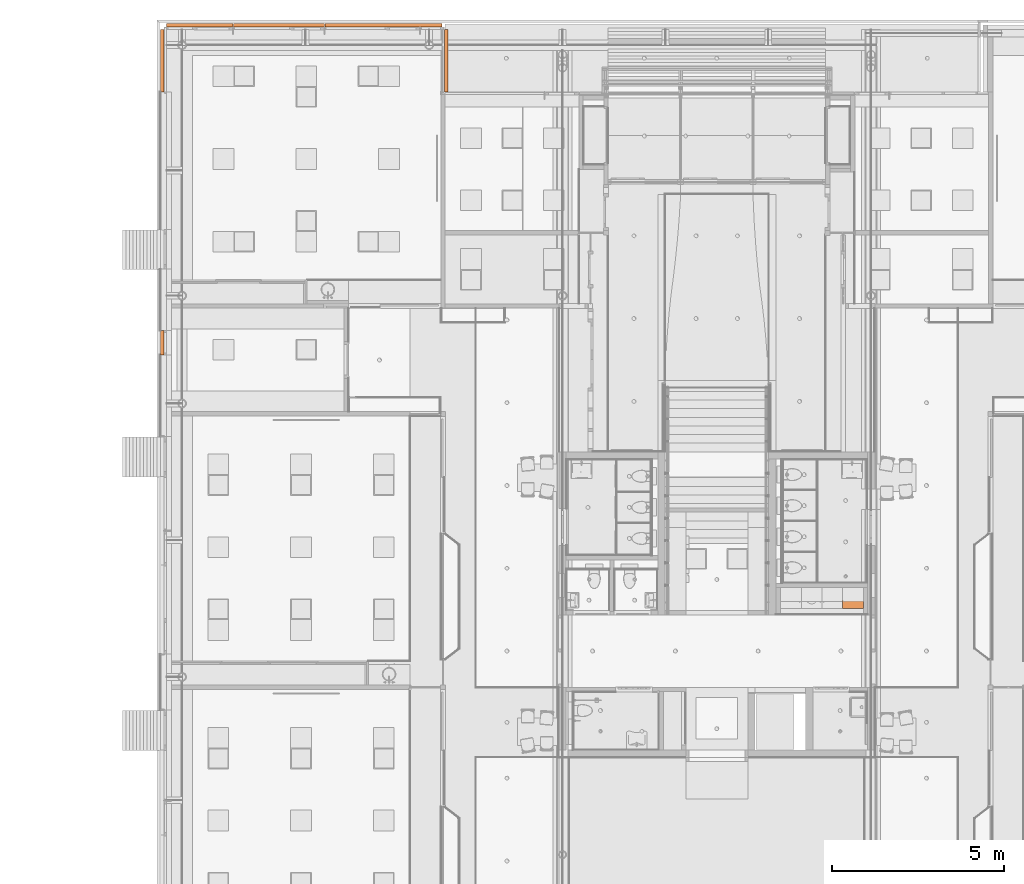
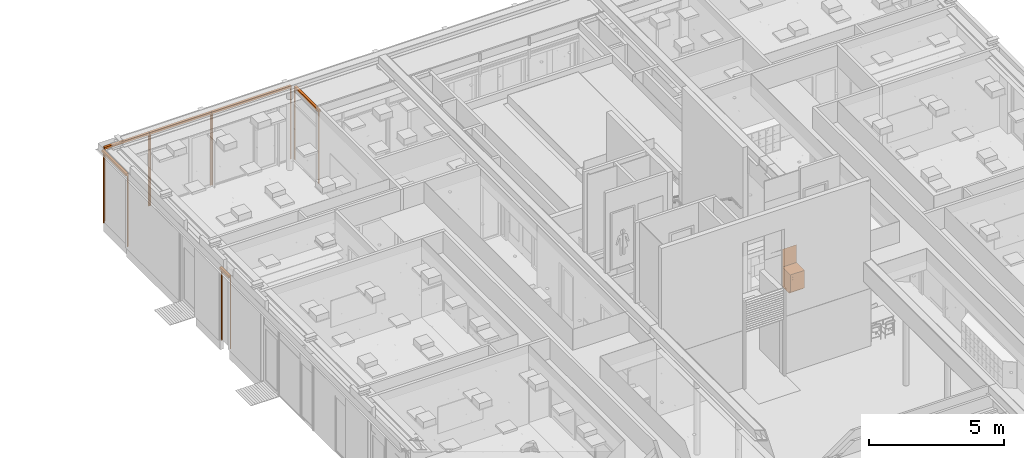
# One storey, part 347 of 347: 7 proxies.
"""IFC2X3 building model written with IfcOpenShell, lengths in millimetres."""

from ifc_helpers import new_model, entity, si_unit, converted_unit, derived_unit, money_unit, direction, frame, origin_with_axes, place, context, subcontext, project, spatial, open_shell, faceted_brep, surface_model, type_object, element, save


model = new_model("IFC2X3")

# Units and contexts
model_context = context("Model", 3, precision=0.01, world=origin_with_axes(), true_north=direction((0.0, 1.0)))
plan_context = context("Plan", 3, precision=0.01, world=origin_with_axes(), true_north=direction((0.0, 1.0)))
body_context = subcontext(model_context, "Body", "Model", "MODEL_VIEW")
ifc_project = project(units=[si_unit("LENGTHUNIT", "METRE", prefix="MILLI"), si_unit("AREAUNIT", "SQUARE_METRE"), si_unit("VOLUMEUNIT", "CUBIC_METRE"), converted_unit("PLANEANGLEUNIT", "DEGREE", entity("IfcPlaneAngleMeasure", 0.0174532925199), si_unit("PLANEANGLEUNIT", "RADIAN"), dimensions=[0, 0, 0, 0, 0, 0, 0]), money_unit("EUR"), converted_unit("TIMEUNIT", "Year", entity("IfcTimeMeasure", 31556926.0), si_unit("TIMEUNIT", "SECOND"), dimensions=[0, 0, 1, 0, 0, 0, 0]), si_unit("MASSUNIT", "GRAM", prefix="KILO"), si_unit("THERMODYNAMICTEMPERATUREUNIT", "DEGREE_CELSIUS"), si_unit("LUMINOUSINTENSITYUNIT", "LUMEN"), si_unit("ENERGYUNIT", "JOULE", prefix="MEGA"), derived_unit("THERMALCONDUCTANCEUNIT", [(si_unit("POWERUNIT", "WATT"), 1), (si_unit("LENGTHUNIT", "METRE"), -1), (si_unit("THERMODYNAMICTEMPERATUREUNIT", "KELVIN"), -1)]), derived_unit("SPECIFICHEATCAPACITYUNIT", [(si_unit("ENERGYUNIT", "JOULE"), 1), (si_unit("MASSUNIT", "GRAM", prefix="KILO"), -1), (si_unit("THERMODYNAMICTEMPERATUREUNIT", "KELVIN"), -1)]), derived_unit("MASSDENSITYUNIT", [(si_unit("MASSUNIT", "GRAM", prefix="KILO"), 1), (si_unit("VOLUMEUNIT", "CUBIC_METRE"), -1)])], contexts=[model_context, plan_context])

# Site, building, storey
site_placement = place(None, origin_with_axes())
site = spatial("IfcSite", under=ifc_project, at=site_placement, Name="Site", CompositionType="ELEMENT")
building_placement = place(site_placement, origin_with_axes())
building = spatial("IfcBuilding", under=site, at=building_placement, Name="Naam gebouw", CompositionType="ELEMENT")
storey_placement = place(building_placement, origin_with_axes())
storey = spatial("IfcBuildingStorey", under=building, at=storey_placement, Name="begane grond", CompositionType="ELEMENT", Elevation=0.0)

# Proxies
building_element_proxy_type_1 = type_object("IfcBuildingElementProxyType", Name="Onderkast recht 25", PredefinedType="NOTDEFINED")
proxy_1_placement = place(storey_placement, frame((44325.0, 30864.9999277, 0.0), z_axis=(0.0, 0.0, 1.0), x_axis=(1.0, 0.0, 0.0)))
element("IfcBuildingElementProxy", 1, at=proxy_1_placement, inside=storey, type_object=building_element_proxy_type_1, Name="_73 pantryblok", context=body_context, shape_type="Brep", body=[
    faceted_brep([(-2.25395169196e-05, -492.0, 2.0), (-2.25395169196e-05, 1.1205766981e-05, 2.0), (0.0, 0.0, 100.0), (0.0, -492.0, 100.0), (-600.0, 1.1205766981e-05, 2.0), (-600.0, -492.0, 2.0), (-600.0, 0.0, 100.0), (-600.0, -492.0, 100.0)], [[[0, 1, 2, 3]], [[4, 1, 0, 5]], [[1, 4, 6, 2]], [[7, 3, 2, 6]], [[5, 0, 3, 7]], [[4, 5, 7, 6]]]),
    faceted_brep([(0.0, -600.0, 870.0), (0.0, -600.0, 900.0), (-600.0, -600.0, 900.0), (-600.0, -600.0, 870.0), (0.0, 0.0, 870.0), (0.0, 0.0, 900.0), (-600.0, 0.0, 900.0), (-600.0, 0.0, 870.0)], [[[0, 1, 2, 3]], [[4, 5, 1, 0]], [[1, 5, 6, 2]], [[3, 2, 6, 7]], [[0, 3, 7, 4]], [[7, 6, 5, 4]]]),
    faceted_brep([(-600.0, 0.0, 900.0), (0.0, 0.0, 900.0), (0.0, -6.0, 900.0), (-600.0, -6.0, 900.0), (-600.0, 0.0, 1700.0), (0.0, 0.0, 1700.0), (0.0, -6.0, 1700.0), (-600.0, -6.0, 1700.0)], [[[0, 1, 2, 3]], [[4, 5, 1, 0]], [[1, 5, 6, 2]], [[3, 2, 6, 7]], [[0, 3, 7, 4]], [[7, 6, 5, 4]]]),
    faceted_brep([(-496.0, -590.0, 641.0), (-506.0, -590.0, 641.0), (-506.0, -590.0, 651.0), (-496.0, -590.0, 651.0), (-496.0, -600.0, 641.0), (-506.0, -600.0, 641.0), (-506.0, -603.472963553, 641.30384494), (-506.0, -606.840402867, 642.206147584), (-506.0, -610.0, 643.679491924), (-506.0, -612.855752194, 645.679111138), (-506.0, -615.320888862, 648.144247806), (-506.0, -617.320508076, 651.0), (-506.0, -618.793852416, 654.159597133), (-506.0, -619.69615506, 657.527036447), (-506.0, -620.0, 661.0), (-506.0, -620.0, 741.0), (-506.0, -619.69615506, 744.472963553), (-506.0, -618.793852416, 747.840402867), (-506.0, -617.320508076, 751.0), (-506.0, -615.320888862, 753.855752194), (-506.0, -612.855752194, 756.320888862), (-506.0, -610.0, 758.320508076), (-506.0, -606.840402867, 759.793852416), (-506.0, -603.472963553, 760.69615506), (-506.0, -600.0, 761.0), (-506.0, -590.0, 761.0), (-506.0, -590.0, 751.0), (-506.0, -600.0, 751.0), (-506.0, -601.736481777, 750.84807753), (-506.0, -603.420201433, 750.396926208), (-506.0, -605.0, 749.660254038), (-506.0, -606.427876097, 748.660444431), (-506.0, -607.660444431, 747.427876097), (-506.0, -608.660254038, 746.0), (-506.0, -609.396926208, 744.420201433), (-506.0, -609.84807753, 742.736481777), (-506.0, -610.0, 741.0), (-506.0, -610.0, 661.0), (-506.0, -609.84807753, 659.263518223), (-506.0, -609.396926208, 657.579798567), (-506.0, -608.660254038, 656.0), (-506.0, -607.660444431, 654.572123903), (-506.0, -606.427876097, 653.339555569), (-506.0, -605.0, 652.339745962), (-506.0, -603.420201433, 651.603073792), (-506.0, -601.736481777, 651.15192247), (-506.0, -600.0, 651.0), (-496.0, -600.0, 651.0), (-496.0, -601.736481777, 651.15192247), (-496.0, -603.420201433, 651.603073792), (-496.0, -605.0, 652.339745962), (-496.0, -606.427876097, 653.339555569), (-496.0, -607.660444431, 654.572123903), (-496.0, -608.660254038, 656.0), (-496.0, -609.396926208, 657.579798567), (-496.0, -609.84807753, 659.263518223), (-496.0, -610.0, 661.0), (-496.0, -610.0, 741.0), (-496.0, -609.84807753, 742.736481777), (-496.0, -609.396926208, 744.420201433), (-496.0, -608.660254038, 746.0), (-496.0, -607.660444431, 747.427876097), (-496.0, -606.427876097, 748.660444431), (-496.0, -605.0, 749.660254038), (-496.0, -603.420201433, 750.396926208), (-496.0, -601.736481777, 750.84807753), (-496.0, -600.0, 751.0), (-496.0, -590.0, 751.0), (-496.0, -590.0, 761.0), (-496.0, -600.0, 761.0), (-496.0, -603.472963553, 760.69615506), (-496.0, -606.840402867, 759.793852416), (-496.0, -610.0, 758.320508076), (-496.0, -612.855752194, 756.320888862), (-496.0, -615.320888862, 753.855752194), (-496.0, -617.320508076, 751.0), (-496.0, -618.793852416, 747.840402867), (-496.0, -619.69615506, 744.472963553), (-496.0, -620.0, 741.0), (-496.0, -620.0, 661.0), (-496.0, -619.69615506, 657.527036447), (-496.0, -618.793852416, 654.159597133), (-496.0, -617.320508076, 651.0), (-496.0, -615.320888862, 648.144247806), (-496.0, -612.855752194, 645.679111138), (-496.0, -610.0, 643.679491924), (-496.0, -606.840402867, 642.206147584), (-496.0, -603.472963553, 641.30384494)], [[[0, 1, 2, 3]], [[4, 5, 1, 0]], [[1, 5, 6, 7, 8, 9, 10, 11, 12, 13, 14, 15, 16, 17, 18, 19, 20, 21, 22, 23, 24, 25, 26, 27, 28, 29, 30, 31, 32, 33, 34, 35, 36, 37, 38, 39, 40, 41, 42, 43, 44, 45, 46, 2]], [[3, 2, 46, 47]], [[0, 3, 47, 48, 49, 50, 51, 52, 53, 54, 55, 56, 57, 58, 59, 60, 61, 62, 63, 64, 65, 66, 67, 68, 69, 70, 71, 72, 73, 74, 75, 76, 77, 78, 79, 80, 81, 82, 83, 84, 85, 86, 87, 4]], [[87, 6, 5, 4]], [[86, 7, 6, 87]], [[85, 8, 7, 86]], [[84, 9, 8, 85]], [[83, 10, 9, 84]], [[82, 11, 10, 83]], [[81, 12, 11, 82]], [[80, 13, 12, 81]], [[79, 14, 13, 80]], [[78, 15, 14, 79]], [[77, 16, 15, 78]], [[76, 17, 16, 77]], [[75, 18, 17, 76]], [[74, 19, 18, 75]], [[73, 20, 19, 74]], [[72, 21, 20, 73]], [[71, 22, 21, 72]], [[70, 23, 22, 71]], [[69, 24, 23, 70]], [[68, 25, 24, 69]], [[67, 26, 25, 68]], [[66, 27, 26, 67]], [[65, 28, 27, 66]], [[64, 29, 28, 65]], [[63, 30, 29, 64]], [[62, 31, 30, 63]], [[61, 32, 31, 62]], [[60, 33, 32, 61]], [[59, 34, 33, 60]], [[58, 35, 34, 59]], [[57, 36, 35, 58]], [[56, 37, 36, 57]], [[55, 38, 37, 56]], [[54, 39, 38, 55]], [[53, 40, 39, 54]], [[52, 41, 40, 53]], [[51, 42, 41, 52]], [[50, 43, 42, 51]], [[49, 44, 43, 50]], [[48, 45, 44, 49]], [[47, 46, 45, 48]]]),
    faceted_brep([(-0.999999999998, -572.0, 101.0), (-0.999999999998, -590.0, 101.0), (-599.0, -590.0, 101.0), (-599.0, -572.0, 101.0), (-0.999999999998, -572.0, 869.0), (-0.999999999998, -590.0, 869.0), (-599.0, -590.0, 869.0), (-599.0, -572.0, 869.0)], [[[0, 1, 2, 3]], [[4, 5, 1, 0]], [[1, 5, 6, 2]], [[3, 2, 6, 7]], [[0, 3, 7, 4]], [[7, 6, 5, 4]]]),
    faceted_brep([(-18.0, -572.0, 100.0), (-18.0, -572.0, 118.0), (-582.0, -572.0, 118.0), (-582.0, -572.0, 100.0), (-18.0, 0.0, 100.0), (-18.0, 0.0, 118.0), (-582.0, 0.0, 118.0), (-582.0, 0.0, 100.0)], [[[0, 1, 2, 3]], [[4, 5, 1, 0]], [[1, 5, 6, 2]], [[3, 2, 6, 7]], [[0, 3, 7, 4]], [[7, 6, 5, 4]]]),
    faceted_brep([(-18.0, -572.0, 852.0), (-582.0, -572.0, 852.0), (-582.0, -512.0, 852.0), (-18.0, -512.0, 852.0), (-18.0, -572.0, 870.0), (-582.0, -572.0, 870.0), (-582.0, -512.0, 870.0), (-18.0, -512.0, 870.0)], [[[0, 1, 2, 3]], [[4, 5, 1, 0]], [[1, 5, 6, 2]], [[3, 2, 6, 7]], [[0, 3, 7, 4]], [[7, 6, 5, 4]]]),
    faceted_brep([(-582.0, 0.0, 852.0), (-18.0, 0.0, 852.0), (-18.0, -60.0, 852.0), (-582.0, -60.0, 852.0), (-582.0, 0.0, 870.0), (-18.0, 0.0, 870.0), (-18.0, -60.0, 870.0), (-582.0, -60.0, 870.0)], [[[0, 1, 2, 3]], [[4, 5, 1, 0]], [[1, 5, 6, 2]], [[3, 2, 6, 7]], [[0, 3, 7, 4]], [[7, 6, 5, 4]]]),
    faceted_brep([(0.0, 0.0, 100.0), (0.0, 0.0, 870.0), (0.0, -572.0, 870.0), (0.0, -572.0, 100.0), (-18.0, 0.0, 100.0), (-18.0, 0.0, 870.0), (-18.0, -572.0, 870.0), (-18.0, -572.0, 100.0)], [[[0, 1, 2, 3]], [[4, 5, 1, 0]], [[1, 5, 6, 2]], [[3, 2, 6, 7]], [[0, 3, 7, 4]], [[7, 6, 5, 4]]]),
    faceted_brep([(-600.0, -572.0, 100.0), (-600.0, -572.0, 870.0), (-600.0, 0.0, 870.0), (-600.0, 0.0, 100.0), (-582.0, -572.0, 100.0), (-582.0, -572.0, 870.0), (-582.0, 0.0, 870.0), (-582.0, 0.0, 100.0)], [[[0, 1, 2, 3]], [[4, 5, 1, 0]], [[1, 5, 6, 2]], [[3, 2, 6, 7]], [[0, 3, 7, 4]], [[7, 6, 5, 4]]]),
    faceted_brep([(-582.0, -9.0, 118.0), (-582.0, -9.0, 852.0), (-18.0, -9.0, 852.0), (-18.0, -9.0, 118.0), (-582.0, -18.0, 118.0), (-582.0, -18.0, 852.0), (-18.0, -18.0, 852.0), (-18.0, -18.0, 118.0)], [[[0, 1, 2, 3]], [[4, 5, 1, 0]], [[1, 5, 6, 2]], [[3, 2, 6, 7]], [[0, 3, 7, 4]], [[7, 6, 5, 4]]]),
])
building_element_proxy_type_2 = type_object("IfcBuildingElementProxyType", Name="Screen 25 KM", PredefinedType="NOTDEFINED")
proxy_2_placement = place(storey_placement, frame((24052.0, 37612.5, -10.0), z_axis=(0.0, 0.0, 1.0), x_axis=(0.0, -1.0, 0.0)))
element("IfcBuildingElementProxy", 2, at=proxy_2_placement, inside=storey, type_object=building_element_proxy_type_2, Name="_78 garderobe", context=body_context, shape_type="SurfaceModel", body=[
    faceted_brep([(0.0, 0.0, 0.0), (0.0, 0.0, 3220.0), (0.0, -40.0, 3220.0), (0.0, -40.0, 0.0), (-38.0, 0.0, 0.0), (-38.0, 0.0, 3220.0), (-38.0, -10.0, 3220.0), (-35.0, -10.0, 3220.0), (-35.0, -3.0, 3220.0), (-3.0, -3.0, 3220.0), (-3.0, -37.0, 3220.0), (-35.0, -37.0, 3220.0), (-35.0, -30.0, 3220.0), (-38.0, -30.0, 3220.0), (-38.0, -40.0, 3220.0), (-38.0, -40.0, 0.0), (-38.0, -30.0, 0.0), (-35.0, -30.0, 0.0), (-35.0, -37.0, 0.0), (-3.0, -37.0, 0.0), (-3.0, -3.0, 0.0), (-35.0, -3.0, 0.0), (-35.0, -10.0, 0.0), (-38.0, -10.0, 0.0)], [[[0, 1, 2, 3]], [[4, 5, 1, 0]], [[1, 5, 6, 7, 8, 9, 10, 11, 12, 13, 14, 2]], [[3, 2, 14, 15]], [[0, 3, 15, 16, 17, 18, 19, 20, 21, 22, 23, 4]], [[23, 6, 5, 4]], [[22, 7, 6, 23]], [[21, 8, 7, 22]], [[20, 9, 8, 21]], [[19, 10, 9, 20]], [[18, 11, 10, 19]], [[17, 12, 11, 18]], [[16, 13, 12, 17]], [[15, 14, 13, 16]]]),
    faceted_brep([(-700.0, 0.0, 0.0), (-700.0, -40.0, 0.0), (-700.0, -40.0, 3220.0), (-700.0, 0.0, 3220.0), (-662.0, 0.0, 0.0), (-662.0, -10.0, 0.0), (-665.0, -10.0, 0.0), (-665.0, -3.0, 0.0), (-697.0, -3.0, 0.0), (-697.0, -37.0, 0.0), (-665.0, -37.0, 0.0), (-665.0, -30.0, 0.0), (-662.0, -30.0, 0.0), (-662.0, -40.0, 0.0), (-662.0, -40.0, 3220.0), (-662.0, -30.0, 3220.0), (-665.0, -30.0, 3220.0), (-665.0, -37.0, 3220.0), (-697.0, -37.0, 3220.0), (-697.0, -3.0, 3220.0), (-665.0, -3.0, 3220.0), (-665.0, -10.0, 3220.0), (-662.0, -10.0, 3220.0), (-662.0, 0.0, 3220.0)], [[[0, 1, 2, 3]], [[0, 4, 5, 6, 7, 8, 9, 10, 11, 12, 13, 1]], [[1, 13, 14, 2]], [[3, 2, 14, 15, 16, 17, 18, 19, 20, 21, 22, 23]], [[4, 0, 3, 23]], [[5, 4, 23, 22]], [[6, 5, 22, 21]], [[7, 6, 21, 20]], [[8, 7, 20, 19]], [[9, 8, 19, 18]], [[10, 9, 18, 17]], [[11, 10, 17, 16]], [[12, 11, 16, 15]], [[13, 12, 15, 14]]]),
    surface_model("IfcShellBasedSurfaceModel", [(0.0, 0.0, 3320.0), (0.0, -100.0, 3320.0), (0.0, -100.0, 3220.0), (0.0, 0.0, 3220.0)], [open_shell([[[0, 1, 2, 3]]])]),
    surface_model("IfcShellBasedSurfaceModel", [(-0.01, 0.0, 3320.0), (-699.99, 0.0, 3320.0), (-699.99, -100.0, 3320.0), (-0.00999999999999, -100.0, 3320.0), (-0.01, 0.0, 3223.0), (-699.99, 0.0, 3223.0), (-699.99, -6.0, 3223.0), (-699.99, -6.0, 3226.0), (-699.99, -3.0, 3226.0), (-699.99, -3.0, 3317.0), (-699.99, -97.0, 3317.0), (-699.99, -97.0, 3223.0), (-699.99, -40.0, 3223.0), (-699.99, -40.0, 3217.0), (-699.99, -43.0, 3217.0), (-699.99, -43.0, 3220.0), (-699.99, -100.0, 3220.0), (-0.01, -100.0, 3220.0), (-0.01, -43.0, 3220.0), (-0.01, -43.0, 3217.0), (-0.01, -40.0, 3217.0), (-0.01, -40.0, 3223.0), (-0.01, -97.0, 3223.0), (-0.00999999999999, -97.0, 3317.0), (-0.01, -3.0, 3317.0), (-0.01, -3.0, 3226.0), (-0.01, -6.0, 3226.0), (-0.01, -6.0, 3223.0)], [open_shell([[[0, 1, 2, 3]], [[4, 5, 1, 0]], [[1, 5, 6, 7, 8, 9, 10, 11, 12, 13, 14, 15, 16, 2]], [[3, 2, 16, 17]], [[0, 3, 17, 18, 19, 20, 21, 22, 23, 24, 25, 26, 27, 4]], [[19, 14, 13, 20]], [[18, 15, 14, 19]], [[17, 16, 15, 18]]])]),
    surface_model("IfcShellBasedSurfaceModel", [(-699.99, 0.0, 3320.0), (-699.99, -100.0, 3320.0), (-699.99, -100.0, 3220.0), (-699.99, 0.0, 3220.0)], [open_shell([[[0, 1, 2, 3]]])]),
])
proxy_3_placement = place(storey_placement, frame((24052.0, 45235.0, -10.0), z_axis=(0.0, 0.0, 1.0), x_axis=(0.0, -1.0, 0.0)))
element("IfcBuildingElementProxy", 3, at=proxy_3_placement, inside=storey, type_object=building_element_proxy_type_2, Name="_78 garderobe", context=body_context, shape_type="SurfaceModel", body=[
    faceted_brep([(0.0, 0.0, 0.0), (0.0, 0.0, 3220.0), (0.0, -40.0, 3220.0), (0.0, -40.0, 0.0), (-38.0, 0.0, 0.0), (-38.0, 0.0, 3220.0), (-38.0, -10.0, 3220.0), (-35.0, -10.0, 3220.0), (-35.0, -3.0, 3220.0), (-3.0, -3.0, 3220.0), (-3.0, -37.0, 3220.0), (-35.0, -37.0, 3220.0), (-35.0, -30.0, 3220.0), (-38.0, -30.0, 3220.0), (-38.0, -40.0, 3220.0), (-38.0, -40.0, 0.0), (-38.0, -30.0, 0.0), (-35.0, -30.0, 0.0), (-35.0, -37.0, 0.0), (-3.0, -37.0, 0.0), (-3.0, -3.0, 0.0), (-35.0, -3.0, 0.0), (-35.0, -10.0, 0.0), (-38.0, -10.0, 0.0)], [[[0, 1, 2, 3]], [[4, 5, 1, 0]], [[1, 5, 6, 7, 8, 9, 10, 11, 12, 13, 14, 2]], [[3, 2, 14, 15]], [[0, 3, 15, 16, 17, 18, 19, 20, 21, 22, 23, 4]], [[23, 6, 5, 4]], [[22, 7, 6, 23]], [[21, 8, 7, 22]], [[20, 9, 8, 21]], [[19, 10, 9, 20]], [[18, 11, 10, 19]], [[17, 12, 11, 18]], [[16, 13, 12, 17]], [[15, 14, 13, 16]]]),
    faceted_brep([(-1801.9999775, 0.0, 0.0), (-1801.9999775, -40.0, 0.0), (-1801.9999775, -40.0, 3220.0), (-1801.9999775, 0.0, 3220.0), (-1763.9999775, 0.0, 0.0), (-1763.9999775, -10.0, 0.0), (-1766.9999775, -10.0, 0.0), (-1766.9999775, -3.0, 0.0), (-1798.9999775, -3.0, 0.0), (-1798.9999775, -37.0, 0.0), (-1766.9999775, -37.0, 0.0), (-1766.9999775, -30.0, 0.0), (-1763.9999775, -30.0, 0.0), (-1763.9999775, -40.0, 0.0), (-1763.9999775, -40.0, 3220.0), (-1763.9999775, -30.0, 3220.0), (-1766.9999775, -30.0, 3220.0), (-1766.9999775, -37.0, 3220.0), (-1798.9999775, -37.0, 3220.0), (-1798.9999775, -3.0, 3220.0), (-1766.9999775, -3.0, 3220.0), (-1766.9999775, -10.0, 3220.0), (-1763.9999775, -10.0, 3220.0), (-1763.9999775, 0.0, 3220.0)], [[[0, 1, 2, 3]], [[0, 4, 5, 6, 7, 8, 9, 10, 11, 12, 13, 1]], [[1, 13, 14, 2]], [[3, 2, 14, 15, 16, 17, 18, 19, 20, 21, 22, 23]], [[4, 0, 3, 23]], [[5, 4, 23, 22]], [[6, 5, 22, 21]], [[7, 6, 21, 20]], [[8, 7, 20, 19]], [[9, 8, 19, 18]], [[10, 9, 18, 17]], [[11, 10, 17, 16]], [[12, 11, 16, 15]], [[13, 12, 15, 14]]]),
    surface_model("IfcShellBasedSurfaceModel", [(0.0, 0.0, 3320.0), (0.0, -100.0, 3320.0), (0.0, -100.0, 3220.0), (0.0, 0.0, 3220.0)], [open_shell([[[0, 1, 2, 3]]])]),
    surface_model("IfcShellBasedSurfaceModel", [(-0.01, 0.0, 3320.0), (-1801.9899775, 0.0, 3320.0), (-1801.9899775, -100.0, 3320.0), (-0.00999999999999, -100.0, 3320.0), (-0.01, 0.0, 3223.0), (-1801.9899775, 0.0, 3223.0), (-1801.9899775, -6.0, 3223.0), (-1801.9899775, -6.0, 3226.0), (-1801.9899775, -3.0, 3226.0), (-1801.9899775, -3.0, 3317.0), (-1801.9899775, -97.0, 3317.0), (-1801.9899775, -97.0, 3223.0), (-1801.9899775, -40.0, 3223.0), (-1801.9899775, -40.0, 3217.0), (-1801.9899775, -43.0, 3217.0), (-1801.9899775, -43.0, 3220.0), (-1801.9899775, -100.0, 3220.0), (-0.01, -100.0, 3220.0), (-0.01, -43.0, 3220.0), (-0.01, -43.0, 3217.0), (-0.01, -40.0, 3217.0), (-0.01, -40.0, 3223.0), (-0.01, -97.0, 3223.0), (-0.00999999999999, -97.0, 3317.0), (-0.01, -3.0, 3317.0), (-0.01, -3.0, 3226.0), (-0.01, -6.0, 3226.0), (-0.01, -6.0, 3223.0)], [open_shell([[[0, 1, 2, 3]], [[4, 5, 1, 0]], [[1, 5, 6, 7, 8, 9, 10, 11, 12, 13, 14, 15, 16, 2]], [[3, 2, 16, 17]], [[0, 3, 17, 18, 19, 20, 21, 22, 23, 24, 25, 26, 27, 4]], [[19, 14, 13, 20]], [[18, 15, 14, 19]], [[17, 16, 15, 18]]])]),
    surface_model("IfcShellBasedSurfaceModel", [(-1801.9899775, 0.0, 3320.0), (-1801.9899775, -100.0, 3320.0), (-1801.9899775, -100.0, 3220.0), (-1801.9899775, 0.0, 3220.0)], [open_shell([[[0, 1, 2, 3]]])]),
])
proxy_4_placement = place(storey_placement, frame((26044.4999998, 47110.0002654, -10.0), z_axis=(0.0, 0.0, 1.0), x_axis=(-1.0, -1.50005340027e-07, 0.0)))
element("IfcBuildingElementProxy", 4, at=proxy_4_placement, inside=storey, type_object=building_element_proxy_type_2, Name="_78 garderobe", context=body_context, shape_type="SurfaceModel", body=[
    faceted_brep([(0.0, 0.0, 0.0), (0.0, -40.0, 0.0), (0.0, -40.0, 3220.0), (0.0, 0.0, 3220.0), (38.0, 0.0, 0.0), (38.0, -10.0, 0.0), (35.0, -10.0, 0.0), (35.0, -3.0, 0.0), (3.0, -3.0, 0.0), (3.0, -37.0, 0.0), (35.0, -37.0, 0.0), (35.0, -30.0, 0.0), (38.0, -30.0, 0.0), (38.0, -40.0, 0.0), (38.0, -40.0, 3220.0), (38.0, -30.0, 3220.0), (35.0, -30.0, 3220.0), (35.0, -37.0, 3220.0), (3.0, -37.0, 3220.0), (3.0, -3.0, 3220.0), (35.0, -3.0, 3220.0), (35.0, -10.0, 3220.0), (38.0, -10.0, 3220.0), (38.0, 0.0, 3220.0)], [[[0, 1, 2, 3]], [[0, 4, 5, 6, 7, 8, 9, 10, 11, 12, 13, 1]], [[1, 13, 14, 2]], [[3, 2, 14, 15, 16, 17, 18, 19, 20, 21, 22, 23]], [[4, 0, 3, 23]], [[5, 4, 23, 22]], [[6, 5, 22, 21]], [[7, 6, 21, 20]], [[8, 7, 20, 19]], [[9, 8, 19, 18]], [[10, 9, 18, 17]], [[11, 10, 17, 16]], [[12, 11, 16, 15]], [[13, 12, 15, 14]]]),
    faceted_brep([(1919.5000108, 0.0, 0.0), (1919.5000108, 0.0, 3220.0), (1919.5000108, -40.0, 3220.0), (1919.5000108, -40.0, 0.0), (1881.5000108, 0.0, 0.0), (1881.5000108, 0.0, 3220.0), (1881.5000108, -10.0, 3220.0), (1884.5000108, -10.0, 3220.0), (1884.5000108, -3.0, 3220.0), (1916.5000108, -3.0, 3220.0), (1916.5000108, -37.0, 3220.0), (1884.5000108, -37.0, 3220.0), (1884.5000108, -30.0, 3220.0), (1881.5000108, -30.0, 3220.0), (1881.5000108, -40.0, 3220.0), (1881.5000108, -40.0, 0.0), (1881.5000108, -30.0, 0.0), (1884.5000108, -30.0, 0.0), (1884.5000108, -37.0, 0.0), (1916.5000108, -37.0, 0.0), (1916.5000108, -3.0, 0.0), (1884.5000108, -3.0, 0.0), (1884.5000108, -10.0, 0.0), (1881.5000108, -10.0, 0.0)], [[[0, 1, 2, 3]], [[4, 5, 1, 0]], [[1, 5, 6, 7, 8, 9, 10, 11, 12, 13, 14, 2]], [[3, 2, 14, 15]], [[0, 3, 15, 16, 17, 18, 19, 20, 21, 22, 23, 4]], [[23, 6, 5, 4]], [[22, 7, 6, 23]], [[21, 8, 7, 22]], [[20, 9, 8, 21]], [[19, 10, 9, 20]], [[18, 11, 10, 19]], [[17, 12, 11, 18]], [[16, 13, 12, 17]], [[15, 14, 13, 16]]]),
    surface_model("IfcShellBasedSurfaceModel", [(0.0, 0.0, 3320.0), (0.0, 0.0, 3220.0), (0.0, -100.0, 3220.0), (0.0, -100.0, 3320.0)], [open_shell([[[0, 1, 2, 3]]])]),
    surface_model("IfcShellBasedSurfaceModel", [(0.01, 0.0, 3320.0), (0.00999999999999, -100.0, 3320.0), (1919.4900108, -100.0, 3320.0), (1919.4900108, 0.0, 3320.0), (0.01, 0.0, 3223.0), (0.01, -6.0, 3223.0), (0.01, -6.0, 3226.0), (0.01, -3.0, 3226.0), (0.01, -3.0, 3317.0), (0.00999999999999, -97.0, 3317.0), (0.01, -97.0, 3223.0), (0.01, -40.0, 3223.0), (0.01, -40.0, 3217.0), (0.01, -43.0, 3217.0), (0.01, -43.0, 3220.0), (0.01, -100.0, 3220.0), (1919.4900108, -100.0, 3220.0), (1919.4900108, -43.0, 3220.0), (1919.4900108, -43.0, 3217.0), (1919.4900108, -40.0, 3217.0), (1919.4900108, -40.0, 3223.0), (1919.4900108, -97.0, 3223.0), (1919.4900108, -97.0, 3317.0), (1919.4900108, -3.0, 3317.0), (1919.4900108, -3.0, 3226.0), (1919.4900108, -6.0, 3226.0), (1919.4900108, -6.0, 3223.0), (1919.4900108, 0.0, 3223.0)], [open_shell([[[0, 1, 2, 3]], [[0, 4, 5, 6, 7, 8, 9, 10, 11, 12, 13, 14, 15, 1]], [[1, 15, 16, 2]], [[3, 2, 16, 17, 18, 19, 20, 21, 22, 23, 24, 25, 26, 27]], [[4, 0, 3, 27]], [[13, 12, 19, 18]], [[14, 13, 18, 17]], [[15, 14, 17, 16]]])]),
    surface_model("IfcShellBasedSurfaceModel", [(1919.4900108, 0.0, 3320.0), (1919.4900108, 0.0, 3220.0), (1919.4900108, -100.0, 3220.0), (1919.4900108, -100.0, 3320.0)], [open_shell([[[0, 1, 2, 3]]])]),
])
proxy_5_placement = place(storey_placement, frame((28699.4999998, 47110.0003735, -10.0), z_axis=(0.0, 0.0, 1.0), x_axis=(-1.0, -1.50005339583e-07, 0.0)))
element("IfcBuildingElementProxy", 5, at=proxy_5_placement, inside=storey, type_object=building_element_proxy_type_2, Name="_78 garderobe", context=body_context, shape_type="SurfaceModel", body=[
    faceted_brep([(0.0, 0.0, 0.0), (0.0, -40.0, 0.0), (0.0, -40.0, 3220.0), (0.0, 0.0, 3220.0), (38.0, 0.0, 0.0), (38.0, -10.0, 0.0), (35.0, -10.0, 0.0), (35.0, -3.0, 0.0), (3.0, -3.0, 0.0), (3.0, -37.0, 0.0), (35.0, -37.0, 0.0), (35.0, -30.0, 0.0), (38.0, -30.0, 0.0), (38.0, -40.0, 0.0), (38.0, -40.0, 3220.0), (38.0, -30.0, 3220.0), (35.0, -30.0, 3220.0), (35.0, -37.0, 3220.0), (3.0, -37.0, 3220.0), (3.0, -3.0, 3220.0), (35.0, -3.0, 3220.0), (35.0, -10.0, 3220.0), (38.0, -10.0, 3220.0), (38.0, 0.0, 3220.0)], [[[0, 1, 2, 3]], [[0, 4, 5, 6, 7, 8, 9, 10, 11, 12, 13, 1]], [[1, 13, 14, 2]], [[3, 2, 14, 15, 16, 17, 18, 19, 20, 21, 22, 23]], [[4, 0, 3, 23]], [[5, 4, 23, 22]], [[6, 5, 22, 21]], [[7, 6, 21, 20]], [[8, 7, 20, 19]], [[9, 8, 19, 18]], [[10, 9, 18, 17]], [[11, 10, 17, 16]], [[12, 11, 16, 15]], [[13, 12, 15, 14]]]),
    faceted_brep([(2639.99999985, 0.0, 0.0), (2639.99999985, 0.0, 3220.0), (2639.99999985, -40.0, 3220.0), (2639.99999985, -40.0, 0.0), (2601.99999985, 0.0, 0.0), (2601.99999985, 0.0, 3220.0), (2601.99999985, -10.0, 3220.0), (2604.99999985, -10.0, 3220.0), (2604.99999985, -3.0, 3220.0), (2636.99999985, -3.0, 3220.0), (2636.99999985, -37.0, 3220.0), (2604.99999985, -37.0, 3220.0), (2604.99999985, -30.0, 3220.0), (2601.99999985, -30.0, 3220.0), (2601.99999985, -40.0, 3220.0), (2601.99999985, -40.0, 0.0), (2601.99999985, -30.0, 0.0), (2604.99999985, -30.0, 0.0), (2604.99999985, -37.0, 0.0), (2636.99999985, -37.0, 0.0), (2636.99999985, -3.0, 0.0), (2604.99999985, -3.0, 0.0), (2604.99999985, -10.0, 0.0), (2601.99999985, -10.0, 0.0)], [[[0, 1, 2, 3]], [[4, 5, 1, 0]], [[1, 5, 6, 7, 8, 9, 10, 11, 12, 13, 14, 2]], [[3, 2, 14, 15]], [[0, 3, 15, 16, 17, 18, 19, 20, 21, 22, 23, 4]], [[23, 6, 5, 4]], [[22, 7, 6, 23]], [[21, 8, 7, 22]], [[20, 9, 8, 21]], [[19, 10, 9, 20]], [[18, 11, 10, 19]], [[17, 12, 11, 18]], [[16, 13, 12, 17]], [[15, 14, 13, 16]]]),
    surface_model("IfcShellBasedSurfaceModel", [(0.0, 0.0, 3320.0), (0.0, 0.0, 3220.0), (0.0, -100.0, 3220.0), (0.0, -100.0, 3320.0)], [open_shell([[[0, 1, 2, 3]]])]),
    surface_model("IfcShellBasedSurfaceModel", [(0.01, 0.0, 3320.0), (0.00999999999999, -100.0, 3320.0), (2639.98999985, -100.0, 3320.0), (2639.98999985, 0.0, 3320.0), (0.01, 0.0, 3223.0), (0.01, -6.0, 3223.0), (0.01, -6.0, 3226.0), (0.01, -3.0, 3226.0), (0.01, -3.0, 3317.0), (0.00999999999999, -97.0, 3317.0), (0.01, -97.0, 3223.0), (0.01, -40.0, 3223.0), (0.01, -40.0, 3217.0), (0.01, -43.0, 3217.0), (0.01, -43.0, 3220.0), (0.01, -100.0, 3220.0), (2639.98999985, -100.0, 3220.0), (2639.98999985, -43.0, 3220.0), (2639.98999985, -43.0, 3217.0), (2639.98999985, -40.0, 3217.0), (2639.98999985, -40.0, 3223.0), (2639.98999985, -97.0, 3223.0), (2639.98999985, -97.0, 3317.0), (2639.98999985, -3.0, 3317.0), (2639.98999985, -3.0, 3226.0), (2639.98999985, -6.0, 3226.0), (2639.98999985, -6.0, 3223.0), (2639.98999985, 0.0, 3223.0)], [open_shell([[[0, 1, 2, 3]], [[0, 4, 5, 6, 7, 8, 9, 10, 11, 12, 13, 14, 15, 1]], [[1, 15, 16, 2]], [[3, 2, 16, 17, 18, 19, 20, 21, 22, 23, 24, 25, 26, 27]], [[4, 0, 3, 27]], [[13, 12, 19, 18]], [[14, 13, 18, 17]], [[15, 14, 17, 16]]])]),
    surface_model("IfcShellBasedSurfaceModel", [(2639.98999985, 0.0, 3320.0), (2639.98999985, 0.0, 3220.0), (2639.98999985, -100.0, 3220.0), (2639.98999985, -100.0, 3320.0)], [open_shell([[[0, 1, 2, 3]]])]),
])
proxy_6_placement = place(storey_placement, frame((32108.0032455, 47110.0004865, -10.0), z_axis=(0.0, 0.0, 1.0), x_axis=(-1.0, -1.50005338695e-07, 0.0)))
element("IfcBuildingElementProxy", 6, at=proxy_6_placement, inside=storey, type_object=building_element_proxy_type_2, Name="_78 garderobe", context=body_context, shape_type="SurfaceModel", body=[
    faceted_brep([(0.0, 0.0, 0.0), (0.0, -40.0, 0.0), (0.0, -40.0, 3220.0), (0.0, 0.0, 3220.0), (38.0, 0.0, 0.0), (38.0, -10.0, 0.0), (35.0, -10.0, 0.0), (35.0, -3.0, 0.0), (3.0, -3.0, 0.0), (3.0, -37.0, 0.0), (35.0, -37.0, 0.0), (35.0, -30.0, 0.0), (38.0, -30.0, 0.0), (38.0, -40.0, 0.0), (38.0, -40.0, 3220.0), (38.0, -30.0, 3220.0), (35.0, -30.0, 3220.0), (35.0, -37.0, 3220.0), (3.0, -37.0, 3220.0), (3.0, -3.0, 3220.0), (35.0, -3.0, 3220.0), (35.0, -10.0, 3220.0), (38.0, -10.0, 3220.0), (38.0, 0.0, 3220.0)], [[[0, 1, 2, 3]], [[0, 4, 5, 6, 7, 8, 9, 10, 11, 12, 13, 1]], [[1, 13, 14, 2]], [[3, 2, 14, 15, 16, 17, 18, 19, 20, 21, 22, 23]], [[4, 0, 3, 23]], [[5, 4, 23, 22]], [[6, 5, 22, 21]], [[7, 6, 21, 20]], [[8, 7, 20, 19]], [[9, 8, 19, 18]], [[10, 9, 18, 17]], [[11, 10, 17, 16]], [[12, 11, 16, 15]], [[13, 12, 15, 14]]]),
    faceted_brep([(3393.50324546, 0.0, 0.0), (3393.50324546, 0.0, 3220.0), (3393.50324546, -40.0, 3220.0), (3393.50324546, -40.0, 0.0), (3355.50324546, 0.0, 0.0), (3355.50324546, 0.0, 3220.0), (3355.50324546, -10.0, 3220.0), (3358.50324546, -10.0, 3220.0), (3358.50324546, -3.0, 3220.0), (3390.50324546, -3.0, 3220.0), (3390.50324546, -37.0, 3220.0), (3358.50324546, -37.0, 3220.0), (3358.50324546, -30.0, 3220.0), (3355.50324546, -30.0, 3220.0), (3355.50324546, -40.0, 3220.0), (3355.50324546, -40.0, 0.0), (3355.50324546, -30.0, 0.0), (3358.50324546, -30.0, 0.0), (3358.50324546, -37.0, 0.0), (3390.50324546, -37.0, 0.0), (3390.50324546, -3.0, 0.0), (3358.50324546, -3.0, 0.0), (3358.50324546, -10.0, 0.0), (3355.50324546, -10.0, 0.0)], [[[0, 1, 2, 3]], [[4, 5, 1, 0]], [[1, 5, 6, 7, 8, 9, 10, 11, 12, 13, 14, 2]], [[3, 2, 14, 15]], [[0, 3, 15, 16, 17, 18, 19, 20, 21, 22, 23, 4]], [[23, 6, 5, 4]], [[22, 7, 6, 23]], [[21, 8, 7, 22]], [[20, 9, 8, 21]], [[19, 10, 9, 20]], [[18, 11, 10, 19]], [[17, 12, 11, 18]], [[16, 13, 12, 17]], [[15, 14, 13, 16]]]),
    surface_model("IfcShellBasedSurfaceModel", [(0.0, 0.0, 3320.0), (0.0, 0.0, 3220.0), (0.0, -100.0, 3220.0), (0.0, -100.0, 3320.0)], [open_shell([[[0, 1, 2, 3]]])]),
    surface_model("IfcShellBasedSurfaceModel", [(0.01, 0.0, 3320.0), (0.00999999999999, -100.0, 3320.0), (3393.49324546, -100.0, 3320.0), (3393.49324546, 0.0, 3320.0), (0.01, 0.0, 3223.0), (0.01, -6.0, 3223.0), (0.01, -6.0, 3226.0), (0.01, -3.0, 3226.0), (0.01, -3.0, 3317.0), (0.00999999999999, -97.0, 3317.0), (0.01, -97.0, 3223.0), (0.01, -40.0, 3223.0), (0.01, -40.0, 3217.0), (0.01, -43.0, 3217.0), (0.01, -43.0, 3220.0), (0.01, -100.0, 3220.0), (3393.49324546, -100.0, 3220.0), (3393.49324546, -43.0, 3220.0), (3393.49324546, -43.0, 3217.0), (3393.49324546, -40.0, 3217.0), (3393.49324546, -40.0, 3223.0), (3393.49324546, -97.0, 3223.0), (3393.49324546, -97.0, 3317.0), (3393.49324546, -3.0, 3317.0), (3393.49324546, -3.0, 3226.0), (3393.49324546, -6.0, 3226.0), (3393.49324546, -6.0, 3223.0), (3393.49324546, 0.0, 3223.0)], [open_shell([[[0, 1, 2, 3]], [[0, 4, 5, 6, 7, 8, 9, 10, 11, 12, 13, 14, 15, 1]], [[1, 15, 16, 2]], [[3, 2, 16, 17, 18, 19, 20, 21, 22, 23, 24, 25, 26, 27]], [[4, 0, 3, 27]], [[13, 12, 19, 18]], [[14, 13, 18, 17]], [[15, 14, 17, 16]]])]),
    surface_model("IfcShellBasedSurfaceModel", [(3393.49324546, 0.0, 3320.0), (3393.49324546, 0.0, 3220.0), (3393.49324546, -100.0, 3220.0), (3393.49324546, -100.0, 3320.0)], [open_shell([[[0, 1, 2, 3]]])]),
])
proxy_7_placement = place(storey_placement, frame((32181.0037655, 47036.9999665, -10.0), z_axis=(0.0, 0.0, 1.0), x_axis=(1.50005437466e-07, 1.0, 0.0)))
element("IfcBuildingElementProxy", 7, at=proxy_7_placement, inside=storey, type_object=building_element_proxy_type_2, Name="_78 garderobe", context=body_context, shape_type="SurfaceModel", body=[
    faceted_brep([(0.0, 0.0, 0.0), (0.0, 0.0, 3220.0), (0.0, -40.0, 3220.0), (0.0, -40.0, 0.0), (-38.0, 0.0, 0.0), (-38.0, 0.0, 3220.0), (-38.0, -10.0, 3220.0), (-35.0, -10.0, 3220.0), (-35.0, -3.0, 3220.0), (-3.0, -3.0, 3220.0), (-3.0, -37.0, 3220.0), (-35.0, -37.0, 3220.0), (-35.0, -30.0, 3220.0), (-38.0, -30.0, 3220.0), (-38.0, -40.0, 3220.0), (-38.0, -40.0, 0.0), (-38.0, -30.0, 0.0), (-35.0, -30.0, 0.0), (-35.0, -37.0, 0.0), (-3.0, -37.0, 0.0), (-3.0, -3.0, 0.0), (-35.0, -3.0, 0.0), (-35.0, -10.0, 0.0), (-38.0, -10.0, 0.0)], [[[0, 1, 2, 3]], [[4, 5, 1, 0]], [[1, 5, 6, 7, 8, 9, 10, 11, 12, 13, 14, 2]], [[3, 2, 14, 15]], [[0, 3, 15, 16, 17, 18, 19, 20, 21, 22, 23, 4]], [[23, 6, 5, 4]], [[22, 7, 6, 23]], [[21, 8, 7, 22]], [[20, 9, 8, 21]], [[19, 10, 9, 20]], [[18, 11, 10, 19]], [[17, 12, 11, 18]], [[16, 13, 12, 17]], [[15, 14, 13, 16]]]),
    faceted_brep([(-1801.9999667, 0.0, 0.0), (-1801.9999667, -40.0, 0.0), (-1801.9999667, -40.0, 3220.0), (-1801.9999667, 0.0, 3220.0), (-1763.9999667, 0.0, 0.0), (-1763.9999667, -10.0, 0.0), (-1766.9999667, -10.0, 0.0), (-1766.9999667, -3.0, 0.0), (-1798.9999667, -3.0, 0.0), (-1798.9999667, -37.0, 0.0), (-1766.9999667, -37.0, 0.0), (-1766.9999667, -30.0, 0.0), (-1763.9999667, -30.0, 0.0), (-1763.9999667, -40.0, 0.0), (-1763.9999667, -40.0, 3220.0), (-1763.9999667, -30.0, 3220.0), (-1766.9999667, -30.0, 3220.0), (-1766.9999667, -37.0, 3220.0), (-1798.9999667, -37.0, 3220.0), (-1798.9999667, -3.0, 3220.0), (-1766.9999667, -3.0, 3220.0), (-1766.9999667, -10.0, 3220.0), (-1763.9999667, -10.0, 3220.0), (-1763.9999667, 0.0, 3220.0)], [[[0, 1, 2, 3]], [[0, 4, 5, 6, 7, 8, 9, 10, 11, 12, 13, 1]], [[1, 13, 14, 2]], [[3, 2, 14, 15, 16, 17, 18, 19, 20, 21, 22, 23]], [[4, 0, 3, 23]], [[5, 4, 23, 22]], [[6, 5, 22, 21]], [[7, 6, 21, 20]], [[8, 7, 20, 19]], [[9, 8, 19, 18]], [[10, 9, 18, 17]], [[11, 10, 17, 16]], [[12, 11, 16, 15]], [[13, 12, 15, 14]]]),
    surface_model("IfcShellBasedSurfaceModel", [(0.0, 0.0, 3320.0), (0.0, -100.0, 3320.0), (0.0, -100.0, 3220.0), (0.0, 0.0, 3220.0)], [open_shell([[[0, 1, 2, 3]]])]),
    surface_model("IfcShellBasedSurfaceModel", [(-0.01, 0.0, 3320.0), (-1801.9899667, 0.0, 3320.0), (-1801.9899667, -100.0, 3320.0), (-0.00999999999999, -100.0, 3320.0), (-0.01, 0.0, 3223.0), (-1801.9899667, 0.0, 3223.0), (-1801.9899667, -6.0, 3223.0), (-1801.9899667, -6.0, 3226.0), (-1801.9899667, -3.0, 3226.0), (-1801.9899667, -3.0, 3317.0), (-1801.9899667, -97.0, 3317.0), (-1801.9899667, -97.0, 3223.0), (-1801.9899667, -40.0, 3223.0), (-1801.9899667, -40.0, 3217.0), (-1801.9899667, -43.0, 3217.0), (-1801.9899667, -43.0, 3220.0), (-1801.9899667, -100.0, 3220.0), (-0.01, -100.0, 3220.0), (-0.01, -43.0, 3220.0), (-0.01, -43.0, 3217.0), (-0.01, -40.0, 3217.0), (-0.01, -40.0, 3223.0), (-0.01, -97.0, 3223.0), (-0.00999999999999, -97.0, 3317.0), (-0.01, -3.0, 3317.0), (-0.01, -3.0, 3226.0), (-0.01, -6.0, 3226.0), (-0.01, -6.0, 3223.0)], [open_shell([[[0, 1, 2, 3]], [[4, 5, 1, 0]], [[1, 5, 6, 7, 8, 9, 10, 11, 12, 13, 14, 15, 16, 2]], [[3, 2, 16, 17]], [[0, 3, 17, 18, 19, 20, 21, 22, 23, 24, 25, 26, 27, 4]], [[19, 14, 13, 20]], [[18, 15, 14, 19]], [[17, 16, 15, 18]]])]),
    surface_model("IfcShellBasedSurfaceModel", [(-1801.9899667, 0.0, 3320.0), (-1801.9899667, -100.0, 3320.0), (-1801.9899667, -100.0, 3220.0), (-1801.9899667, 0.0, 3220.0)], [open_shell([[[0, 1, 2, 3]]])]),
])

save(model, "model.ifc")
